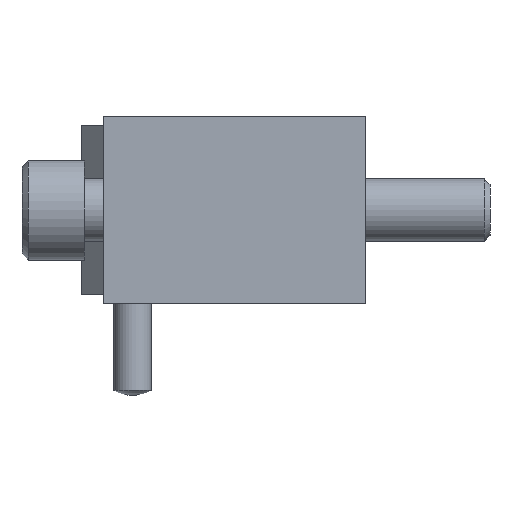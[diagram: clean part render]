
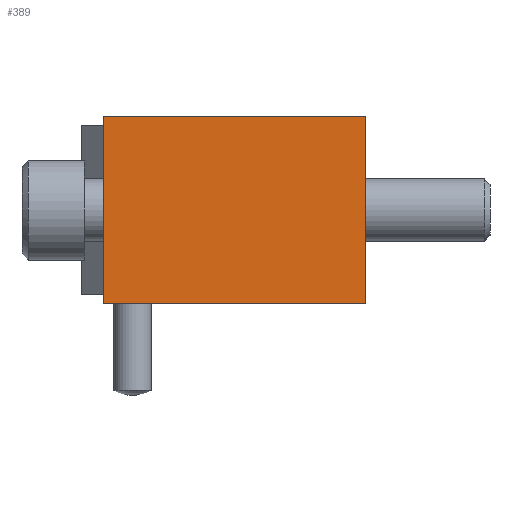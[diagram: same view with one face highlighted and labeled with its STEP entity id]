
A CAD part, left-side view. The second image highlights one B-rep face of the part: STEP entity #389.
In plain terms, the highlighted planar face has unit normal (-1, 0, 0).
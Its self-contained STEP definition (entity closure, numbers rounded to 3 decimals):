
#389 = ADVANCED_FACE( '', ( #733 ), #734, .F. );
#733 = FACE_OUTER_BOUND( '', #1080, .T. );
#734 = PLANE( '', #1081 );
#1080 = EDGE_LOOP( '', ( #1679, #1680, #1681, #1682 ) );
#1081 = AXIS2_PLACEMENT_3D( '', #1683, #1684, #1685 );
#1679 = ORIENTED_EDGE( '', *, *, #2010, .T. );
#1680 = ORIENTED_EDGE( '', *, *, #2184, .F. );
#1681 = ORIENTED_EDGE( '', *, *, #2109, .F. );
#1682 = ORIENTED_EDGE( '', *, *, #2087, .T. );
#1683 = CARTESIAN_POINT( '', ( 0., 42., -15. ) );
#1684 = DIRECTION( '', ( 1., 0., 0. ) );
#1685 = DIRECTION( '', ( 0., 0., -1. ) );
#2010 = EDGE_CURVE( '', #2327, #2328, #2329, .T. );
#2087 = EDGE_CURVE( '', #2454, #2327, #2455, .T. );
#2109 = EDGE_CURVE( '', #2454, #2487, #2488, .T. );
#2184 = EDGE_CURVE( '', #2487, #2328, #2589, .T. );
#2327 = VERTEX_POINT( '', #2767 );
#2328 = VERTEX_POINT( '', #2768 );
#2329 = LINE( '', #2769, #2770 );
#2454 = VERTEX_POINT( '', #2943 );
#2455 = LINE( '', #2944, #2945 );
#2487 = VERTEX_POINT( '', #2990 );
#2488 = LINE( '', #2991, #2992 );
#2589 = LINE( '', #3130, #3131 );
#2767 = CARTESIAN_POINT( '', ( 0., 0., -15. ) );
#2768 = CARTESIAN_POINT( '', ( 0., 0., 15. ) );
#2769 = CARTESIAN_POINT( '', ( 0., 0., -15. ) );
#2770 = VECTOR( '', #3311, 1000. );
#2943 = CARTESIAN_POINT( '', ( 0., 42., -15. ) );
#2944 = CARTESIAN_POINT( '', ( 0., 42., -15. ) );
#2945 = VECTOR( '', #3393, 1000. );
#2990 = CARTESIAN_POINT( '', ( 0., 42., 15. ) );
#2991 = CARTESIAN_POINT( '', ( 0., 42., -15. ) );
#2992 = VECTOR( '', #3416, 1000. );
#3130 = CARTESIAN_POINT( '', ( 0., 42., 15. ) );
#3131 = VECTOR( '', #3487, 1000. );
#3311 = DIRECTION( '', ( 0., 0., 1. ) );
#3393 = DIRECTION( '', ( 0., -1., 0. ) );
#3416 = DIRECTION( '', ( 0., 0., 1. ) );
#3487 = DIRECTION( '', ( 0., -1., 0. ) );
